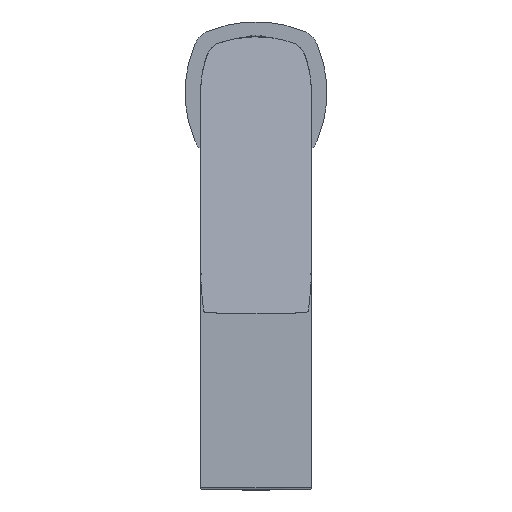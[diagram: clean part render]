
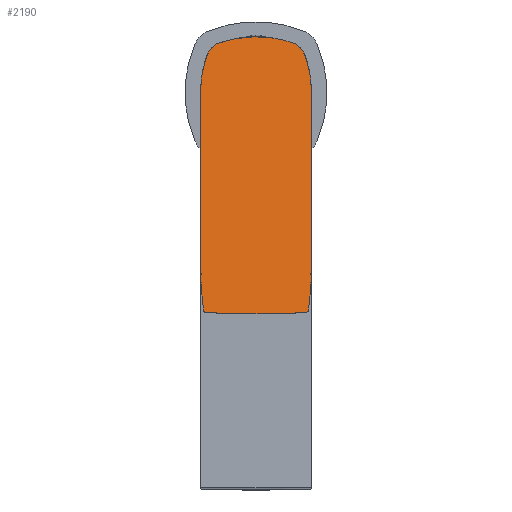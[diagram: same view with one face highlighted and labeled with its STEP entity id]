
A CAD part, top view. The second image highlights one B-rep face of the part: STEP entity #2190.
In plain terms, the highlighted planar face has unit normal (0, 0.134, 0.991).
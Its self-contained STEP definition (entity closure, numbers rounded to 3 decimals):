
#1455 = VERTEX_POINT('',#1456);
#1456 = CARTESIAN_POINT('',(-19.5,-61.5,174.934));
#1462 = EDGE_CURVE('',#1455,#1463,#1465,.T.);
#1463 = VERTEX_POINT('',#1464);
#1464 = CARTESIAN_POINT('',(-19.5,0.05,
    166.63));
#1465 = LINE('',#1466,#1467);
#1466 = CARTESIAN_POINT('',(-19.5,-61.5,174.934));
#1467 = VECTOR('',#1468,1.);
#1468 = DIRECTION('',(0.,0.991,-0.134
    ));
#1486 = VERTEX_POINT('',#1487);
#1487 = CARTESIAN_POINT('',(19.5,0.05,
    166.63));
#1493 = EDGE_CURVE('',#1486,#1494,#1496,.T.);
#1494 = VERTEX_POINT('',#1495);
#1495 = CARTESIAN_POINT('',(19.5,-61.5,174.934));
#1496 = LINE('',#1497,#1498);
#1497 = CARTESIAN_POINT('',(19.5,0.05,
    166.63));
#1498 = VECTOR('',#1499,1.);
#1499 = DIRECTION('',(0.,-0.991,0.134
    ));
#1560 = VERTEX_POINT('',#1561);
#1561 = CARTESIAN_POINT('',(17.053,13.156,
    164.863));
#1567 = EDGE_CURVE('',#1560,#1486,#1568,.T.);
#1568 = ELLIPSE('',#1569,36.643,36.314);
#1569 = AXIS2_PLACEMENT_3D('',#1570,#1571,#1572);
#1570 = CARTESIAN_POINT('',(-16.814,0.05,
    166.63));
#1571 = DIRECTION('',(0.,-0.134,
    -0.991));
#1572 = DIRECTION('',(0.,0.991,-0.134)
  );
#1593 = VERTEX_POINT('',#1594);
#1594 = CARTESIAN_POINT('',(12.785,17.255,
    164.31));
#1600 = EDGE_CURVE('',#1593,#1560,#1601,.T.);
#1601 = ELLIPSE('',#1602,7.063,7.);
#1602 = AXIS2_PLACEMENT_3D('',#1603,#1604,#1605);
#1603 = CARTESIAN_POINT('',(10.524,10.63,
    165.203));
#1604 = DIRECTION('',(0.,-0.134,
    -0.991));
#1605 = DIRECTION('',(0.,0.991,-0.134)
  );
#1626 = VERTEX_POINT('',#1627);
#1627 = CARTESIAN_POINT('',(-12.785,17.255,
    164.31));
#1633 = EDGE_CURVE('',#1626,#1593,#1634,.T.);
#1634 = ELLIPSE('',#1635,39.944,39.585);
#1635 = AXIS2_PLACEMENT_3D('',#1636,#1637,#1638);
#1636 = CARTESIAN_POINT('',(0.,-20.209,
    169.363));
#1637 = DIRECTION('',(0.,-0.134,
    -0.991));
#1638 = DIRECTION('',(0.,0.991,-0.134)
  );
#1708 = VERTEX_POINT('',#1709);
#1709 = CARTESIAN_POINT('',(-17.053,13.156,
    164.863));
#1715 = EDGE_CURVE('',#1708,#1626,#1716,.T.);
#1716 = ELLIPSE('',#1717,7.063,7.);
#1717 = AXIS2_PLACEMENT_3D('',#1718,#1719,#1720);
#1718 = CARTESIAN_POINT('',(-10.524,10.63,
    165.203));
#1719 = DIRECTION('',(0.,-0.134,
    -0.991));
#1720 = DIRECTION('',(0.,0.991,-0.134)
  );
#1731 = EDGE_CURVE('',#1463,#1708,#1732,.T.);
#1732 = ELLIPSE('',#1733,36.643,36.314);
#1733 = AXIS2_PLACEMENT_3D('',#1734,#1735,#1736);
#1734 = CARTESIAN_POINT('',(16.814,0.05,
    166.63));
#1735 = DIRECTION('',(0.,-0.134,
    -0.991));
#1736 = DIRECTION('',(0.,-0.991,0.134)
  );
#1927 = VERTEX_POINT('',#1928);
#1928 = CARTESIAN_POINT('',(-18.422,-76.805,
    176.998));
#1934 = EDGE_CURVE('',#1927,#1455,#1935,.T.);
#1935 = ELLIPSE('',#1936,110.204,109.215);
#1936 = AXIS2_PLACEMENT_3D('',#1937,#1938,#1939);
#1937 = CARTESIAN_POINT('',(89.715,-61.5,174.934));
#1938 = DIRECTION('',(0.,-0.134,
    -0.991));
#1939 = DIRECTION('',(0.,0.991,-0.134
    ));
#1964 = VERTEX_POINT('',#1965);
#1965 = CARTESIAN_POINT('',(17.489,-77.663,177.114
    ));
#1971 = EDGE_CURVE('',#1964,#1972,#1974,.T.);
#1972 = VERTEX_POINT('',#1973);
#1973 = CARTESIAN_POINT('',(-17.489,-77.663,
    177.114));
#1974 = ELLIPSE('',#1975,309.929,307.146);
#1975 = AXIS2_PLACEMENT_3D('',#1976,#1977,#1978);
#1976 = CARTESIAN_POINT('',(0.,228.985,
    135.747));
#1977 = DIRECTION('',(0.,-0.134,
    -0.991));
#1978 = DIRECTION('',(0.,0.991,-0.134
    ));
#2006 = EDGE_CURVE('',#1494,#2007,#2009,.T.);
#2007 = VERTEX_POINT('',#2008);
#2008 = CARTESIAN_POINT('',(18.422,-76.805,
    176.998));
#2009 = ELLIPSE('',#2010,110.204,109.215);
#2010 = AXIS2_PLACEMENT_3D('',#2011,#2012,#2013);
#2011 = CARTESIAN_POINT('',(-89.715,-61.5,174.934));
#2012 = DIRECTION('',(0.,-0.134,
    -0.991));
#2013 = DIRECTION('',(0.,-0.991,0.134)
  );
#2190 = ADVANCED_FACE('',(#2191),#2217,.F.);
#2191 = FACE_BOUND('',#2192,.T.);
#2192 = EDGE_LOOP('',(#2193,#2194,#2195,#2202,#2203,#2210,#2211,#2212,
    #2213,#2214,#2215,#2216));
#2193 = ORIENTED_EDGE('',*,*,#1462,.F.);
#2194 = ORIENTED_EDGE('',*,*,#1934,.F.);
#2195 = ORIENTED_EDGE('',*,*,#2196,.T.);
#2196 = EDGE_CURVE('',#1927,#1972,#2197,.T.);
#2197 = ELLIPSE('',#2198,1.009,1.);
#2198 = AXIS2_PLACEMENT_3D('',#2199,#2200,#2201);
#2199 = CARTESIAN_POINT('',(-17.432,-76.665,
    176.979));
#2200 = DIRECTION('',(0.,0.134,0.991)
  );
#2201 = DIRECTION('',(0.,0.991,-0.134
    ));
#2202 = ORIENTED_EDGE('',*,*,#1971,.F.);
#2203 = ORIENTED_EDGE('',*,*,#2204,.T.);
#2204 = EDGE_CURVE('',#1964,#2007,#2205,.T.);
#2205 = ELLIPSE('',#2206,1.009,1.);
#2206 = AXIS2_PLACEMENT_3D('',#2207,#2208,#2209);
#2207 = CARTESIAN_POINT('',(17.432,-76.665,
    176.979));
#2208 = DIRECTION('',(0.,0.134,0.991)
  );
#2209 = DIRECTION('',(0.,0.991,-0.134
    ));
#2210 = ORIENTED_EDGE('',*,*,#2006,.F.);
#2211 = ORIENTED_EDGE('',*,*,#1493,.F.);
#2212 = ORIENTED_EDGE('',*,*,#1567,.F.);
#2213 = ORIENTED_EDGE('',*,*,#1600,.F.);
#2214 = ORIENTED_EDGE('',*,*,#1633,.F.);
#2215 = ORIENTED_EDGE('',*,*,#1715,.F.);
#2216 = ORIENTED_EDGE('',*,*,#1731,.F.);
#2217 = PLANE('',#2218);
#2218 = AXIS2_PLACEMENT_3D('',#2219,#2220,#2221);
#2219 = CARTESIAN_POINT('',(25.,-79.162,
    177.316));
#2220 = DIRECTION('',(0.,-0.134,
    -0.991));
#2221 = DIRECTION('',(-1.,0.,0.));
